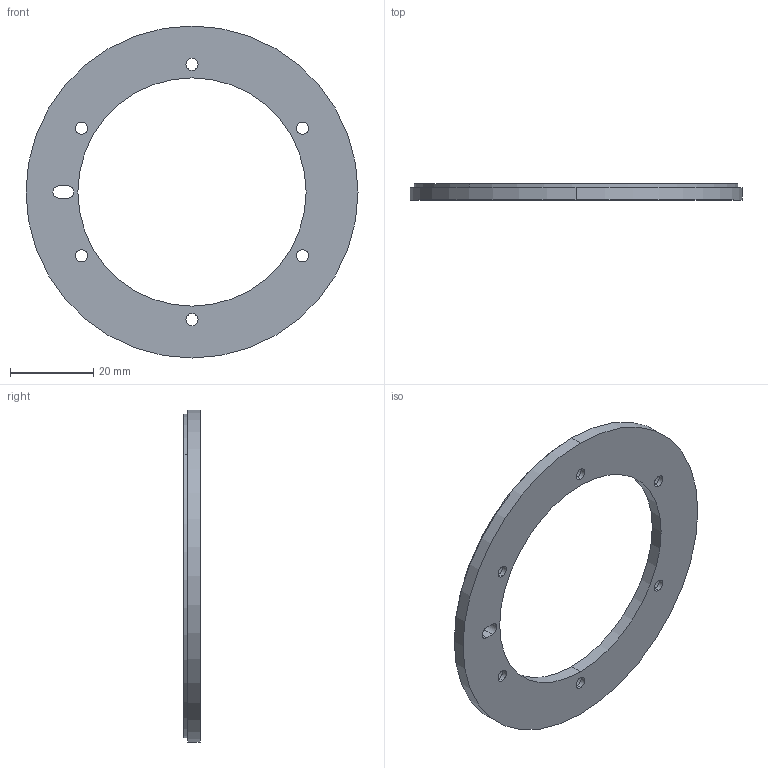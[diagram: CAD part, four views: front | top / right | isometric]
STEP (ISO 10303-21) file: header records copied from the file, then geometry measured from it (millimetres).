
FILE_DESCRIPTION (( 'STEP AP214' ), '1' );
FILE_NAME ('MRA080AF0550EMH00.STEP', '2019-07-05T12:24:01', ( '' ), ( '' ), 'SwSTEP 2.0', 'SolidWorks 2016', '' );
FILE_SCHEMA (( 'AUTOMOTIVE_DESIGN' ));
Length unit declared in the file: millimetre
Products named in the file (3): MN00324_ID55-OD80x2,9; Elastoferrite_OD80-ID68x0.9; MRA080AF0550EMH00
Assembly tree (2 placements, depth 2):
  MRA080AF0550EMH00
    MN00324_ID55-OD80x2,9
    Elastoferrite_OD80-ID68x0.9
Bounding box: 80 x 3.9 x 80 mm (x, y, z)
Volume: 8640.8 mm3; surface area: 9467 mm2
Topology: 2 solids, 2 shells, 46 faces, 108 edges, 72 vertices
Faces by surface type: cylinder 34, plane 12
Entity records: 1506 total; most frequent: DIRECTION 278, CARTESIAN_POINT 231, ORIENTED_EDGE 216, AXIS2_PLACEMENT_3D 119, EDGE_CURVE 108, VERTEX_POINT 72, EDGE_LOOP 70, CIRCLE 68
